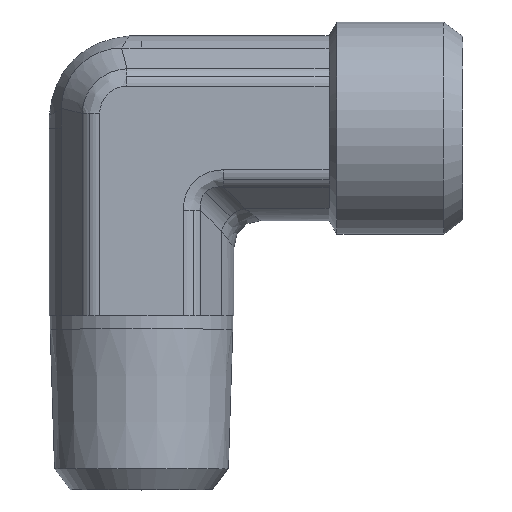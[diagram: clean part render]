
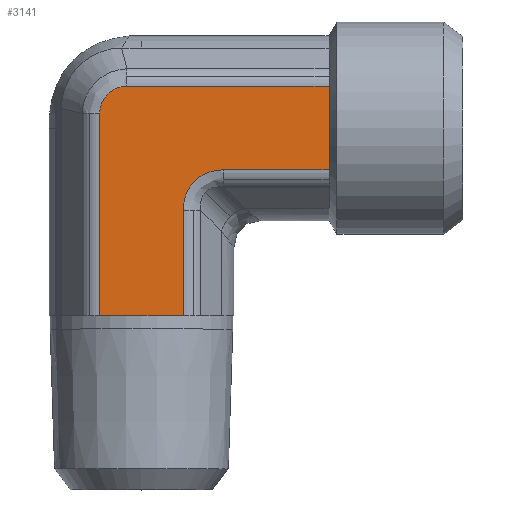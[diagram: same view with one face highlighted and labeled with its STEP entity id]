
A CAD part, top view. The second image highlights one B-rep face of the part: STEP entity #3141.
In plain terms, the highlighted planar face has unit normal (0, 0, 1) as drawn and (0, -1, 0) by its records, which use the part's own axes.
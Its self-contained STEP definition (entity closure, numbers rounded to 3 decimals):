
#361=CARTESIAN_POINT('',(1.649,-6.9,3.118));
#362=VERTEX_POINT('',#361);
#370=CARTESIAN_POINT('',(9.5,-6.9,3.118));
#371=VERTEX_POINT('',#370);
#372=CARTESIAN_POINT('',(1.649,-6.9,3.118));
#373=DIRECTION('',(1.0,0.0,0.0));
#374=VECTOR('',#373,7.851);
#375=LINE('',#372,#374);
#376=EDGE_CURVE('',#362,#371,#375,.T.);
#485=CARTESIAN_POINT('',(-7.618,-6.9,-1.091));
#486=VERTEX_POINT('',#485);
#494=CARTESIAN_POINT('',(-7.618,-6.9,14.0));
#495=VERTEX_POINT('',#494);
#496=CARTESIAN_POINT('',(-7.618,-6.9,-1.091));
#497=DIRECTION('',(0.0,0.0,1.0));
#498=VECTOR('',#497,15.091);
#499=LINE('',#496,#498);
#500=EDGE_CURVE('',#486,#495,#499,.T.);
#2082=CARTESIAN_POINT('',(-4.5,-6.9,14.0));
#2083=VERTEX_POINT('',#2082);
#2213=CARTESIAN_POINT('',(-4.5,-6.9,14.0));
#2214=DIRECTION('',(-1.0,0.0,0.0));
#2215=VECTOR('',#2214,3.118);
#2216=LINE('',#2213,#2215);
#2217=EDGE_CURVE('',#2083,#495,#2216,.T.);
#2290=CARTESIAN_POINT('',(-1.382,-6.9,14.0));
#2291=VERTEX_POINT('',#2290);
#2292=CARTESIAN_POINT('',(-1.382,-6.9,14.0));
#2293=DIRECTION('',(-1.0,0.0,0.0));
#2294=VECTOR('',#2293,3.118);
#2295=LINE('',#2292,#2294);
#2296=EDGE_CURVE('',#2291,#2083,#2295,.T.);
#2384=CARTESIAN_POINT('',(9.5,-6.9,-3.118));
#2385=VERTEX_POINT('',#2384);
#2386=CARTESIAN_POINT('',(9.5,-6.9,-3.118));
#2387=DIRECTION('',(0.0,0.0,1.0));
#2388=VECTOR('',#2387,6.235);
#2389=LINE('',#2386,#2388);
#2390=EDGE_CURVE('',#2385,#371,#2389,.T.);
#2826=CARTESIAN_POINT('',(-5.591,-6.9,-3.118));
#2827=VERTEX_POINT('',#2826);
#2835=CARTESIAN_POINT('',(-7.618,-6.9,-1.091));
#2836=CARTESIAN_POINT('',(-7.618,-6.9,-1.223));
#2837=CARTESIAN_POINT('',(-7.605,-6.9,-1.356));
#2838=CARTESIAN_POINT('',(-7.536,-6.9,-1.695));
#2839=CARTESIAN_POINT('',(-7.462,-6.9,-1.896));
#2840=CARTESIAN_POINT('',(-7.191,-6.9,-2.378));
#2841=CARTESIAN_POINT('',(-6.949,-6.9,-2.631));
#2842=CARTESIAN_POINT('',(-6.339,-6.9,-3.011));
#2843=CARTESIAN_POINT('',(-5.965,-6.9,-3.118));
#2844=CARTESIAN_POINT('',(-5.591,-6.9,-3.118));
#2845=B_SPLINE_CURVE_WITH_KNOTS('',3,(#2835,#2836,#2837,#2838,#2839,#2840,#2841,#2842,#2843,#2844),.UNSPECIFIED.,.F.,.U.,(4,2,2,2,4),(-3.166,-2.771,-2.137,-1.124,0.0),.UNSPECIFIED.);
#2846=EDGE_CURVE('',#2827,#486,#2845,.F.);
#2873=CARTESIAN_POINT('',(9.5,-6.9,-3.118));
#2874=DIRECTION('',(-1.0,0.0,0.0));
#2875=VECTOR('',#2874,15.091);
#2876=LINE('',#2873,#2875);
#2877=EDGE_CURVE('',#2385,#2827,#2876,.T.);
#3009=CARTESIAN_POINT('',(-1.382,-6.9,6.149));
#3010=VERTEX_POINT('',#3009);
#3011=CARTESIAN_POINT('',(-1.382,-6.9,14.0));
#3012=DIRECTION('',(0.0,0.0,-1.0));
#3013=VECTOR('',#3012,7.851);
#3014=LINE('',#3011,#3013);
#3015=EDGE_CURVE('',#2291,#3010,#3014,.T.);
#3098=CARTESIAN_POINT('',(2.659,-6.9,7.159));
#3099=DIRECTION('',(0.,-1.,0.));
#3100=DIRECTION('',(-0.707,0.,-0.707));
#3101=AXIS2_PLACEMENT_3D('',#3098,#3099,#3100);
#3102=ELLIPSE('',#3101,4.518,3.5);
#3103=EDGE_CURVE('',#3010,#362,#3102,.T.);
#3125=CARTESIAN_POINT('',(-4.5,-6.9,-3.175));
#3126=DIRECTION('',(0.0,-1.0,0.0));
#3127=DIRECTION('',(0.0,0.0,-1.0));
#3128=AXIS2_PLACEMENT_3D('',#3125,#3126,#3127);
#3129=PLANE('',#3128);
#3130=ORIENTED_EDGE('',*,*,#2877,.F.);
#3131=ORIENTED_EDGE('',*,*,#2390,.T.);
#3132=ORIENTED_EDGE('',*,*,#376,.F.);
#3133=ORIENTED_EDGE('',*,*,#3103,.F.);
#3134=ORIENTED_EDGE('',*,*,#3015,.F.);
#3135=ORIENTED_EDGE('',*,*,#2296,.T.);
#3136=ORIENTED_EDGE('',*,*,#2217,.T.);
#3137=ORIENTED_EDGE('',*,*,#500,.F.);
#3138=ORIENTED_EDGE('',*,*,#2846,.F.);
#3139=EDGE_LOOP('',(#3130,#3131,#3132,#3133,#3134,#3135,#3136,#3137,#3138));
#3140=FACE_OUTER_BOUND('',#3139,.T.);
#3141=ADVANCED_FACE('',(#3140),#3129,.T.);
